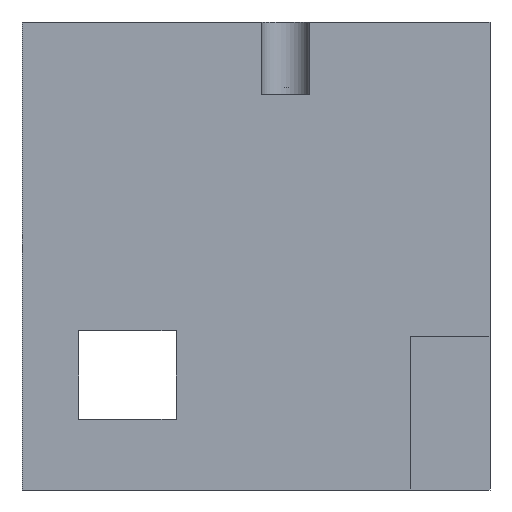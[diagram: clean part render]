
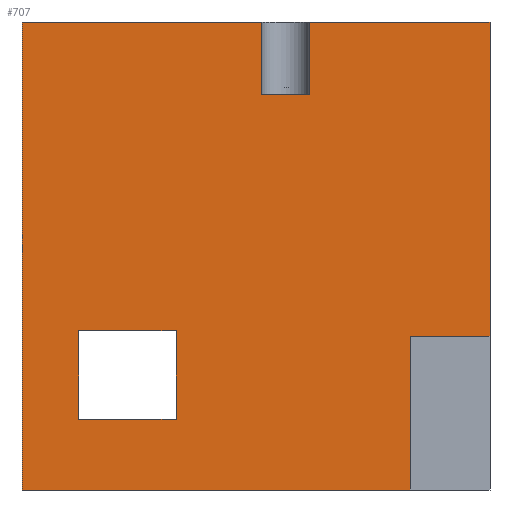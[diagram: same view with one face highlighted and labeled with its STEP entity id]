
A CAD part, front view. The second image highlights one B-rep face of the part: STEP entity #707.
In plain terms, the highlighted planar face has unit normal (0, -1, 0).
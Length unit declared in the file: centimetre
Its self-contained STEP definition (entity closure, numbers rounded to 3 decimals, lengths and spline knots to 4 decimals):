
#22 = LINE ( 'NONE', #1032, #163 ) ;
#23 = FACE_BOUND ( 'NONE', #373, .T. ) ;
#31 = DIRECTION ( 'NONE',  ( 0., 0., -1. ) ) ;
#32 = VECTOR ( 'NONE', #393, 100. ) ;
#34 = CARTESIAN_POINT ( 'NONE',  ( 829.7425, 0., 328.3676 ) ) ;
#49 = EDGE_CURVE ( 'NONE', #356, #1156, #687, .T. ) ;
#56 = DIRECTION ( 'NONE',  ( 1., 0., 0. ) ) ;
#58 = DIRECTION ( 'NONE',  ( 0., 0., 1. ) ) ;
#109 = CARTESIAN_POINT ( 'NONE',  ( 1000., 0., 1000. ) ) ;
#136 = CARTESIAN_POINT ( 'NONE',  ( 0., 0., 1000. ) ) ;
#137 = VERTEX_POINT ( 'NONE', #438 ) ;
#148 = CARTESIAN_POINT ( 'NONE',  ( 614.7591, 0., 845.705 ) ) ;
#150 = EDGE_CURVE ( 'NONE', #550, #1238, #1413, .T. ) ;
#163 = VECTOR ( 'NONE', #56, 100. ) ;
#193 = DIRECTION ( 'NONE',  ( -1., 0., 0. ) ) ;
#210 = EDGE_CURVE ( 'NONE', #137, #356, #1414, .T. ) ;
#221 = ORIENTED_EDGE ( 'NONE', *, *, #935, .T. ) ;
#244 = AXIS2_PLACEMENT_3D ( 'NONE', #989, #865, #594 ) ;
#255 = VERTEX_POINT ( 'NONE', #1356 ) ;
#284 = PLANE ( 'NONE',  #244 ) ;
#291 = EDGE_CURVE ( 'NONE', #1826, #1156, #1794, .T. ) ;
#309 = DIRECTION ( 'NONE',  ( -1., 0., 0. ) ) ;
#337 = VECTOR ( 'NONE', #309, 100. ) ;
#356 = VERTEX_POINT ( 'NONE', #1721 ) ;
#373 = EDGE_LOOP ( 'NONE', ( #921, #1649, #683, #221 ) ) ;
#393 = DIRECTION ( 'NONE',  ( 0., 0., -1. ) ) ;
#414 = VERTEX_POINT ( 'NONE', #460 ) ;
#431 = VECTOR ( 'NONE', #1333, 100. ) ;
#438 = CARTESIAN_POINT ( 'NONE',  ( 0., 0., 1000. ) ) ;
#460 = CARTESIAN_POINT ( 'NONE',  ( 1000., 0., 1000. ) ) ;
#466 = CARTESIAN_POINT ( 'NONE',  ( 120.8582, 0., 151.0681 ) ) ;
#468 = VECTOR ( 'NONE', #1697, 100. ) ;
#487 = CARTESIAN_POINT ( 'NONE',  ( 511.9784, 0., 845.705 ) ) ;
#498 = VECTOR ( 'NONE', #31, 100. ) ;
#513 = EDGE_CURVE ( 'NONE', #137, #1016, #22, .T. ) ;
#534 = VECTOR ( 'NONE', #1659, 100. ) ;
#540 = CARTESIAN_POINT ( 'NONE',  ( 829.7425, 0., 328.3676 ) ) ;
#550 = VERTEX_POINT ( 'NONE', #1328 ) ;
#577 = LINE ( 'NONE', #738, #1028 ) ;
#594 = DIRECTION ( 'NONE',  ( 0., 0., 1. ) ) ;
#597 = CARTESIAN_POINT ( 'NONE',  ( 829.7425, 0., 0. ) ) ;
#600 = LINE ( 'NONE', #1577, #431 ) ;
#683 = ORIENTED_EDGE ( 'NONE', *, *, #1488, .T. ) ;
#684 = CARTESIAN_POINT ( 'NONE',  ( 329.2296, 0., 151.0681 ) ) ;
#687 = LINE ( 'NONE', #982, #817 ) ;
#707 = ADVANCED_FACE ( 'NONE', ( #23, #1543 ), #284, .F. ) ;
#717 = DIRECTION ( 'NONE',  ( 1., 0., 0. ) ) ;
#722 = VERTEX_POINT ( 'NONE', #856 ) ;
#738 = CARTESIAN_POINT ( 'NONE',  ( 120.8582, 0., 340.4005 ) ) ;
#746 = LINE ( 'NONE', #34, #337 ) ;
#775 = LINE ( 'NONE', #1311, #1795 ) ;
#782 = CARTESIAN_POINT ( 'NONE',  ( 614.7591, 0., 1000. ) ) ;
#784 = VECTOR ( 'NONE', #58, 100. ) ;
#788 = EDGE_CURVE ( 'NONE', #1347, #1826, #746, .T. ) ;
#800 = ORIENTED_EDGE ( 'NONE', *, *, #1744, .T. ) ;
#817 = VECTOR ( 'NONE', #1526, 100. ) ;
#822 = CARTESIAN_POINT ( 'NONE',  ( 614.7591, 0., 845.705 ) ) ;
#823 = EDGE_CURVE ( 'NONE', #1252, #550, #600, .T. ) ;
#838 = ORIENTED_EDGE ( 'NONE', *, *, #513, .F. ) ;
#856 = CARTESIAN_POINT ( 'NONE',  ( 329.2296, 0., 340.4005 ) ) ;
#865 = DIRECTION ( 'NONE',  ( 0., 1., 0. ) ) ;
#921 = ORIENTED_EDGE ( 'NONE', *, *, #823, .T. ) ;
#924 = EDGE_CURVE ( 'NONE', #414, #1347, #1493, .T. ) ;
#925 = CARTESIAN_POINT ( 'NONE',  ( 120.8582, 0., 340.4005 ) ) ;
#933 = CARTESIAN_POINT ( 'NONE',  ( 1000., 0., 328.3676 ) ) ;
#935 = EDGE_CURVE ( 'NONE', #722, #1252, #1519, .T. ) ;
#982 = CARTESIAN_POINT ( 'NONE',  ( 0., 0., 0. ) ) ;
#989 = CARTESIAN_POINT ( 'NONE',  ( 0., 0., 1000. ) ) ;
#997 = VERTEX_POINT ( 'NONE', #822 ) ;
#1016 = VERTEX_POINT ( 'NONE', #1785 ) ;
#1028 = VECTOR ( 'NONE', #1133, 100. ) ;
#1032 = CARTESIAN_POINT ( 'NONE',  ( 0., 0., 1000. ) ) ;
#1095 = DIRECTION ( 'NONE',  ( 0., 0., -1. ) ) ;
#1125 = ORIENTED_EDGE ( 'NONE', *, *, #210, .T. ) ;
#1133 = DIRECTION ( 'NONE',  ( 1., 0., 0. ) ) ;
#1156 = VERTEX_POINT ( 'NONE', #597 ) ;
#1161 = ORIENTED_EDGE ( 'NONE', *, *, #1604, .F. ) ;
#1177 = LINE ( 'NONE', #487, #784 ) ;
#1190 = EDGE_CURVE ( 'NONE', #997, #255, #775, .T. ) ;
#1197 = CARTESIAN_POINT ( 'NONE',  ( 329.2296, 0., 151.0681 ) ) ;
#1211 = VECTOR ( 'NONE', #1290, 100. ) ;
#1238 = VERTEX_POINT ( 'NONE', #925 ) ;
#1252 = VERTEX_POINT ( 'NONE', #1197 ) ;
#1290 = DIRECTION ( 'NONE',  ( 0., 0., 1. ) ) ;
#1294 = ORIENTED_EDGE ( 'NONE', *, *, #1190, .T. ) ;
#1307 = VERTEX_POINT ( 'NONE', #782 ) ;
#1311 = CARTESIAN_POINT ( 'NONE',  ( 0., 0., 845.705 ) ) ;
#1328 = CARTESIAN_POINT ( 'NONE',  ( 120.8582, 0., 151.0681 ) ) ;
#1333 = DIRECTION ( 'NONE',  ( -1., 0., 0. ) ) ;
#1340 = VECTOR ( 'NONE', #1095, 100. ) ;
#1345 = ORIENTED_EDGE ( 'NONE', *, *, #924, .F. ) ;
#1347 = VERTEX_POINT ( 'NONE', #933 ) ;
#1356 = CARTESIAN_POINT ( 'NONE',  ( 511.9784, 0., 845.705 ) ) ;
#1401 = LINE ( 'NONE', #136, #1765 ) ;
#1405 = ORIENTED_EDGE ( 'NONE', *, *, #291, .F. ) ;
#1410 = LINE ( 'NONE', #148, #1211 ) ;
#1413 = LINE ( 'NONE', #466, #468 ) ;
#1414 = LINE ( 'NONE', #1561, #498 ) ;
#1488 = EDGE_CURVE ( 'NONE', #1238, #722, #577, .T. ) ;
#1492 = EDGE_LOOP ( 'NONE', ( #1294, #800, #838, #1125, #1667, #1405, #1529, #1345, #1161, #1675 ) ) ;
#1493 = LINE ( 'NONE', #109, #32 ) ;
#1502 = CARTESIAN_POINT ( 'NONE',  ( 829.7425, 0., 328.3676 ) ) ;
#1519 = LINE ( 'NONE', #684, #534 ) ;
#1526 = DIRECTION ( 'NONE',  ( 1., 0., 0. ) ) ;
#1529 = ORIENTED_EDGE ( 'NONE', *, *, #788, .F. ) ;
#1543 = FACE_OUTER_BOUND ( 'NONE', #1492, .T. ) ;
#1561 = CARTESIAN_POINT ( 'NONE',  ( 0., 0., 1000. ) ) ;
#1577 = CARTESIAN_POINT ( 'NONE',  ( 120.8582, 0., 151.0681 ) ) ;
#1604 = EDGE_CURVE ( 'NONE', #1307, #414, #1401, .T. ) ;
#1613 = EDGE_CURVE ( 'NONE', #997, #1307, #1410, .T. ) ;
#1649 = ORIENTED_EDGE ( 'NONE', *, *, #150, .T. ) ;
#1659 = DIRECTION ( 'NONE',  ( 0., 0., -1. ) ) ;
#1667 = ORIENTED_EDGE ( 'NONE', *, *, #49, .T. ) ;
#1675 = ORIENTED_EDGE ( 'NONE', *, *, #1613, .F. ) ;
#1697 = DIRECTION ( 'NONE',  ( 0., 0., 1. ) ) ;
#1721 = CARTESIAN_POINT ( 'NONE',  ( 0., 0., 0. ) ) ;
#1744 = EDGE_CURVE ( 'NONE', #255, #1016, #1177, .T. ) ;
#1765 = VECTOR ( 'NONE', #717, 100. ) ;
#1785 = CARTESIAN_POINT ( 'NONE',  ( 511.9784, 0., 1000. ) ) ;
#1794 = LINE ( 'NONE', #540, #1340 ) ;
#1795 = VECTOR ( 'NONE', #193, 100. ) ;
#1826 = VERTEX_POINT ( 'NONE', #1502 ) ;
